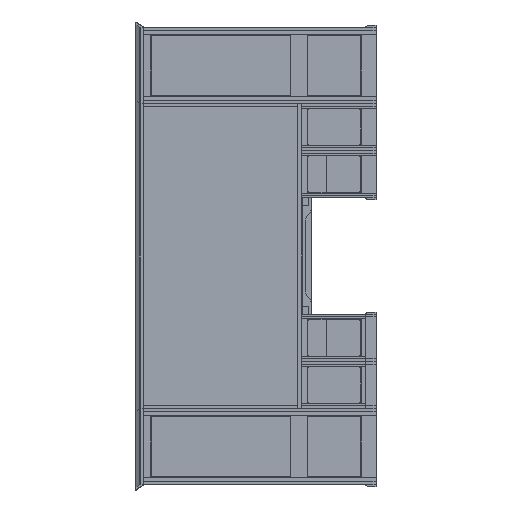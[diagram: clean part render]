
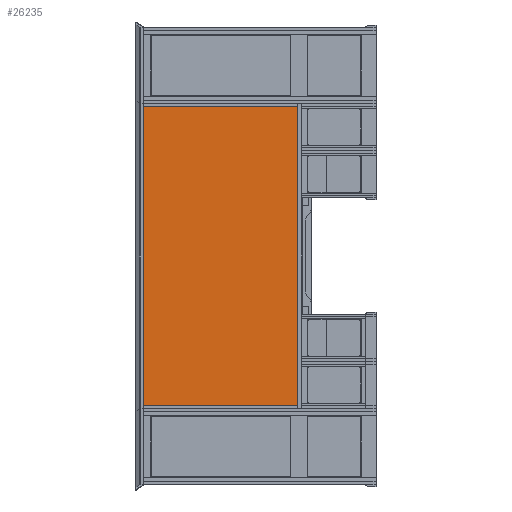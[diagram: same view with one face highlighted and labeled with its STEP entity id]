
A CAD part, left-side view. The second image highlights one B-rep face of the part: STEP entity #26235.
In plain terms, the highlighted planar face has unit normal (-1, 0, 0) as drawn and (0, 0, -1) by its records, which use the part's own axes.
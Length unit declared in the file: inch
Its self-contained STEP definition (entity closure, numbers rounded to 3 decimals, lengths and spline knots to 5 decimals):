
#5686=FACE_OUTER_BOUND('',#7074,.T.);
#7074=EDGE_LOOP('',(#20491,#20492,#20493,#20494));
#9133=LINE('',#39965,#11730);
#9137=LINE('',#39973,#11734);
#9140=LINE('',#39979,#11737);
#9143=LINE('',#39984,#11740);
#11730=VECTOR('',#32137,0.3937);
#11734=VECTOR('',#32143,0.3937);
#11737=VECTOR('',#32148,0.3937);
#11740=VECTOR('',#32153,0.3937);
#14073=VERTEX_POINT('',#39963);
#14074=VERTEX_POINT('',#39964);
#14077=VERTEX_POINT('',#39972);
#14079=VERTEX_POINT('',#39978);
#16403=EDGE_CURVE('',#14073,#14074,#9133,.T.);
#16407=EDGE_CURVE('',#14077,#14073,#9137,.T.);
#16410=EDGE_CURVE('',#14079,#14077,#9140,.T.);
#16413=EDGE_CURVE('',#14074,#14079,#9143,.T.);
#20491=ORIENTED_EDGE('',*,*,#16413,.F.);
#20492=ORIENTED_EDGE('',*,*,#16403,.F.);
#20493=ORIENTED_EDGE('',*,*,#16407,.F.);
#20494=ORIENTED_EDGE('',*,*,#16410,.F.);
#25050=PLANE('',#28621);
#26235=ADVANCED_FACE('',(#5686),#25050,.F.);
#28621=AXIS2_PLACEMENT_3D('',#39987,#32157,#32158);
#32137=DIRECTION('',(1.,0.,0.));
#32143=DIRECTION('',(0.,-1.,0.));
#32148=DIRECTION('',(-1.,0.,0.));
#32153=DIRECTION('',(0.,1.,0.));
#32157=DIRECTION('center_axis',(0.,0.,1.));
#32158=DIRECTION('ref_axis',(1.,0.,0.));
#39963=CARTESIAN_POINT('',(0.,0.,0.));
#39964=CARTESIAN_POINT('',(112.,0.,0.));
#39965=CARTESIAN_POINT('',(0.,0.,0.));
#39972=CARTESIAN_POINT('',(0.,57.75,0.));
#39973=CARTESIAN_POINT('',(0.,57.75,0.));
#39978=CARTESIAN_POINT('',(112.,57.75,0.));
#39979=CARTESIAN_POINT('',(112.,57.75,0.));
#39984=CARTESIAN_POINT('',(112.,0.,0.));
#39987=CARTESIAN_POINT('Origin',(56.,28.875,0.));
